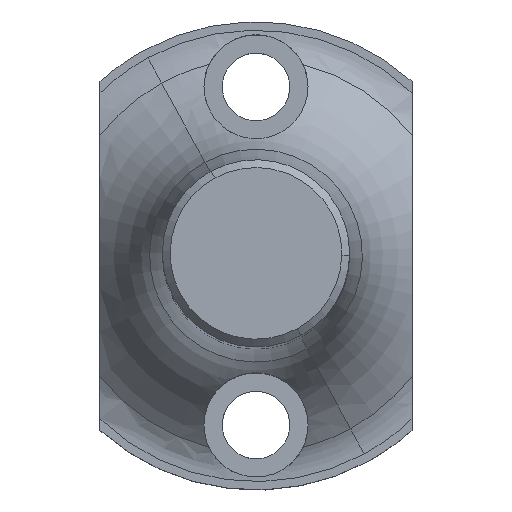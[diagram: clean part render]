
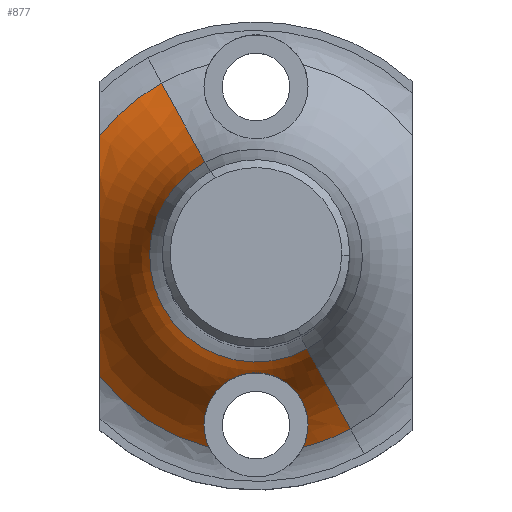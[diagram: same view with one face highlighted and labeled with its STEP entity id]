
A CAD part, top view. The second image highlights one B-rep face of the part: STEP entity #877.
In plain terms, the highlighted toroidal (fillet/blend) face has major radius 59.965 mm and minor radius 40 mm.
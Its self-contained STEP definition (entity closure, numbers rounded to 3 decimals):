
#409=CARTESIAN_POINT('Vertex',(-30.,-23.086,26.667)) ;
#413=CARTESIAN_POINT('Control Point',(-30.,23.086,26.667)) ;
#414=CARTESIAN_POINT('Control Point',(-30.,20.797,27.593)) ;
#415=CARTESIAN_POINT('Control Point',(-30.,18.565,28.528)) ;
#416=CARTESIAN_POINT('Control Point',(-30.,16.386,29.442)) ;
#417=CARTESIAN_POINT('Control Point',(-30.,11.345,31.455)) ;
#418=CARTESIAN_POINT('Control Point',(-30.,6.476,32.912)) ;
#419=CARTESIAN_POINT('Control Point',(-30.,3.705,33.466)) ;
#420=CARTESIAN_POINT('Control Point',(-30.,-1.082,33.751)) ;
#421=CARTESIAN_POINT('Control Point',(-30.,-5.886,32.971)) ;
#422=CARTESIAN_POINT('Control Point',(-30.,-7.916,32.466)) ;
#423=CARTESIAN_POINT('Control Point',(-30.,-12.059,31.168)) ;
#424=CARTESIAN_POINT('Control Point',(-30.,-16.324,29.468)) ;
#425=CARTESIAN_POINT('Control Point',(-30.,-18.519,28.548)) ;
#426=CARTESIAN_POINT('Control Point',(-30.,-20.773,27.602)) ;
#427=CARTESIAN_POINT('Control Point',(-30.,-23.086,26.667)) ;
#428=CARTESIAN_POINT('Vertex',(-30.,23.086,26.667)) ;
#738=CARTESIAN_POINT('Vertex',(18.148,-33.22,26.667)) ;
#741=CARTESIAN_POINT('Axis2P3D Location',(0.,0.,26.667)) ;
#745=CARTESIAN_POINT('Vertex',(9.049,-36.757,26.667)) ;
#764=CARTESIAN_POINT('Vertex',(-9.049,-36.757,26.667)) ;
#767=CARTESIAN_POINT('Axis2P3D Location',(0.,0.,26.667)) ;
#781=CARTESIAN_POINT('Axis2P3D Location',(0.,0.,60.)) ;
#787=CARTESIAN_POINT('Control Point',(-9.049,-36.757,26.667)) ;
#788=CARTESIAN_POINT('Control Point',(-9.514,-35.768,27.23)) ;
#789=CARTESIAN_POINT('Control Point',(-9.839,-34.704,27.893)) ;
#790=CARTESIAN_POINT('Control Point',(-10.,-33.595,28.677)) ;
#791=CARTESIAN_POINT('Control Point',(-10.,-32.5,29.57)) ;
#792=CARTESIAN_POINT('Vertex',(-10.,-32.5,29.57)) ;
#796=CARTESIAN_POINT('Control Point',(-10.,-32.5,29.57)) ;
#797=CARTESIAN_POINT('Control Point',(-10.,-31.759,30.174)) ;
#798=CARTESIAN_POINT('Control Point',(-9.931,-31.023,30.825)) ;
#799=CARTESIAN_POINT('Control Point',(-9.796,-30.307,31.519)) ;
#800=CARTESIAN_POINT('Control Point',(-9.373,-28.82,33.105)) ;
#801=CARTESIAN_POINT('Control Point',(-8.734,-27.542,34.768)) ;
#802=CARTESIAN_POINT('Control Point',(-8.346,-26.926,35.667)) ;
#803=CARTESIAN_POINT('Control Point',(-7.622,-25.965,37.215)) ;
#804=CARTESIAN_POINT('Control Point',(-6.857,-25.199,38.672)) ;
#805=CARTESIAN_POINT('Control Point',(-6.523,-24.902,39.28)) ;
#806=CARTESIAN_POINT('Control Point',(-5.597,-24.16,40.894)) ;
#807=CARTESIAN_POINT('Control Point',(-4.666,-23.618,42.318)) ;
#808=CARTESIAN_POINT('Control Point',(-4.074,-23.334,43.14)) ;
#809=CARTESIAN_POINT('Control Point',(-2.897,-22.879,44.575)) ;
#810=CARTESIAN_POINT('Control Point',(-1.711,-22.62,45.521)) ;
#811=CARTESIAN_POINT('Control Point',(-1.117,-22.536,45.85)) ;
#812=CARTESIAN_POINT('Control Point',(0.093,-22.455,46.162)) ;
#813=CARTESIAN_POINT('Control Point',(1.302,-22.557,45.768)) ;
#814=CARTESIAN_POINT('Control Point',(1.908,-22.655,45.391)) ;
#815=CARTESIAN_POINT('Control Point',(2.992,-22.915,44.454)) ;
#816=CARTESIAN_POINT('Control Point',(4.07,-23.343,43.126)) ;
#817=CARTESIAN_POINT('Control Point',(4.548,-23.569,42.47)) ;
#818=CARTESIAN_POINT('Control Point',(5.57,-24.139,40.946)) ;
#819=CARTESIAN_POINT('Control Point',(6.592,-24.932,39.18)) ;
#820=CARTESIAN_POINT('Control Point',(7.134,-25.429,38.178)) ;
#821=CARTESIAN_POINT('Control Point',(7.993,-26.386,36.472)) ;
#822=CARTESIAN_POINT('Control Point',(8.754,-27.617,34.692)) ;
#823=CARTESIAN_POINT('Control Point',(9.024,-28.129,34.008)) ;
#824=CARTESIAN_POINT('Control Point',(9.506,-29.243,32.641)) ;
#825=CARTESIAN_POINT('Control Point',(9.83,-30.495,31.339)) ;
#826=CARTESIAN_POINT('Control Point',(9.943,-31.151,30.712)) ;
#827=CARTESIAN_POINT('Control Point',(10.,-31.823,30.122)) ;
#828=CARTESIAN_POINT('Control Point',(10.,-32.5,29.57)) ;
#829=CARTESIAN_POINT('Vertex',(10.,-32.5,29.57)) ;
#833=CARTESIAN_POINT('Control Point',(9.049,-36.757,26.667)) ;
#834=CARTESIAN_POINT('Control Point',(9.514,-35.768,27.23)) ;
#835=CARTESIAN_POINT('Control Point',(9.839,-34.704,27.893)) ;
#836=CARTESIAN_POINT('Control Point',(10.,-33.595,28.677)) ;
#837=CARTESIAN_POINT('Control Point',(10.,-32.5,29.57)) ;
#839=CARTESIAN_POINT('Axis2P3D Location',(28.749,-52.624,60.)) ;
#843=CARTESIAN_POINT('Vertex',(9.807,-17.952,53.75)) ;
#846=CARTESIAN_POINT('Axis2P3D Location',(0.,0.,53.75)) ;
#850=CARTESIAN_POINT('Vertex',(-9.807,17.952,53.75)) ;
#853=CARTESIAN_POINT('Axis2P3D Location',(-28.749,52.624,60.)) ;
#857=CARTESIAN_POINT('Vertex',(-18.148,33.22,26.667)) ;
#860=CARTESIAN_POINT('Axis2P3D Location',(0.,0.,26.667)) ;
#742=DIRECTION('Axis2P3D Direction',(0.,0.,1.)) ;
#768=DIRECTION('Axis2P3D Direction',(0.,0.,1.)) ;
#782=DIRECTION('Axis2P3D Direction',(0.,0.,1.)) ;
#783=DIRECTION('Axis2P3D XDirection',(-0.479,0.878,0.)) ;
#840=DIRECTION('Axis2P3D Direction',(-0.878,-0.479,0.)) ;
#847=DIRECTION('Axis2P3D Direction',(0.,0.,1.)) ;
#854=DIRECTION('Axis2P3D Direction',(0.878,0.479,-0.)) ;
#861=DIRECTION('Axis2P3D Direction',(0.,0.,1.)) ;
#743=AXIS2_PLACEMENT_3D('Circle Axis2P3D',#741,#742,$) ;
#769=AXIS2_PLACEMENT_3D('Circle Axis2P3D',#767,#768,$) ;
#784=AXIS2_PLACEMENT_3D('Torus Axis2P3D',#781,#782,#783) ;
#841=AXIS2_PLACEMENT_3D('Circle Axis2P3D',#839,#840,$) ;
#848=AXIS2_PLACEMENT_3D('Circle Axis2P3D',#846,#847,$) ;
#855=AXIS2_PLACEMENT_3D('Circle Axis2P3D',#853,#854,$) ;
#862=AXIS2_PLACEMENT_3D('Circle Axis2P3D',#860,#861,$) ;
#866=ORIENTED_EDGE('',*,*,#430,.T.) ;
#867=ORIENTED_EDGE('',*,*,#771,.T.) ;
#868=ORIENTED_EDGE('',*,*,#794,.T.) ;
#869=ORIENTED_EDGE('',*,*,#831,.T.) ;
#870=ORIENTED_EDGE('',*,*,#838,.F.) ;
#871=ORIENTED_EDGE('',*,*,#747,.T.) ;
#872=ORIENTED_EDGE('',*,*,#845,.F.) ;
#873=ORIENTED_EDGE('',*,*,#852,.F.) ;
#874=ORIENTED_EDGE('',*,*,#859,.T.) ;
#875=ORIENTED_EDGE('',*,*,#864,.T.) ;
#877=ADVANCED_FACE('PartBody',(#876),#785,.F.) ;
#412=B_SPLINE_CURVE_WITH_KNOTS('',5,(#413,#414,#415,#416,#417,#418,#419,#420,#421,#422,#423,#424,#425,#426,#427),.UNSPECIFIED.,.F.,.U.,(6,3,3,3,6),(0.,15.78,37.25,52.835,68.781),.UNSPECIFIED.) ;
#786=B_SPLINE_CURVE_WITH_KNOTS('',4,(#787,#788,#789,#790,#791),.UNSPECIFIED.,.F.,.U.,(5,5),(0.,7.981),.UNSPECIFIED.) ;
#795=B_SPLINE_CURVE_WITH_KNOTS('',5,(#796,#797,#798,#799,#800,#801,#802,#803,#804,#805,#806,#807,#808,#809,#810,#811,#812,#813,#814,#815,#816,#817,#818,#819,#820,#821,#822,#823,#824,#825,#826,#827,#828),.UNSPECIFIED.,.F.,.U.,(6,3,3,3,3,3,3,3,3,3,6),(0.,6.27,13.714,19.369,29.337,39.216,49.323,57.381,66.524,72.184,77.908),.UNSPECIFIED.) ;
#832=B_SPLINE_CURVE_WITH_KNOTS('',4,(#833,#834,#835,#836,#837),.UNSPECIFIED.,.F.,.U.,(5,5),(0.,7.981),.UNSPECIFIED.) ;
#744=CIRCLE('generated circle',#743,37.854) ;
#770=CIRCLE('generated circle',#769,37.854) ;
#842=CIRCLE('generated circle',#841,40.) ;
#849=CIRCLE('generated circle',#848,20.456) ;
#856=CIRCLE('generated circle',#855,40.) ;
#863=CIRCLE('generated circle',#862,37.854) ;
#785=TOROIDAL_SURFACE('homeo Torus',#784,59.965,40.) ;
#430=EDGE_CURVE('',#429,#410,#412,.T.) ;
#747=EDGE_CURVE('',#746,#739,#744,.T.) ;
#771=EDGE_CURVE('',#410,#765,#770,.T.) ;
#794=EDGE_CURVE('',#765,#793,#786,.T.) ;
#831=EDGE_CURVE('',#793,#830,#795,.T.) ;
#838=EDGE_CURVE('',#746,#830,#832,.T.) ;
#845=EDGE_CURVE('',#844,#739,#842,.T.) ;
#852=EDGE_CURVE('',#851,#844,#849,.T.) ;
#859=EDGE_CURVE('',#851,#858,#856,.T.) ;
#864=EDGE_CURVE('',#858,#429,#863,.T.) ;
#865=EDGE_LOOP('',(#866,#867,#868,#869,#870,#871,#872,#873,#874,#875)) ;
#876=FACE_OUTER_BOUND('',#865,.T.) ;
#410=VERTEX_POINT('',#409) ;
#429=VERTEX_POINT('',#428) ;
#739=VERTEX_POINT('',#738) ;
#746=VERTEX_POINT('',#745) ;
#765=VERTEX_POINT('',#764) ;
#793=VERTEX_POINT('',#792) ;
#830=VERTEX_POINT('',#829) ;
#844=VERTEX_POINT('',#843) ;
#851=VERTEX_POINT('',#850) ;
#858=VERTEX_POINT('',#857) ;
